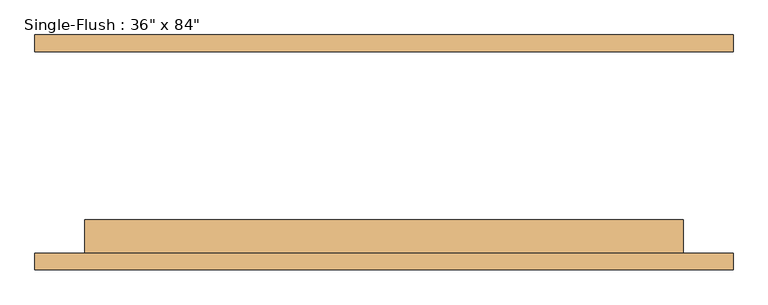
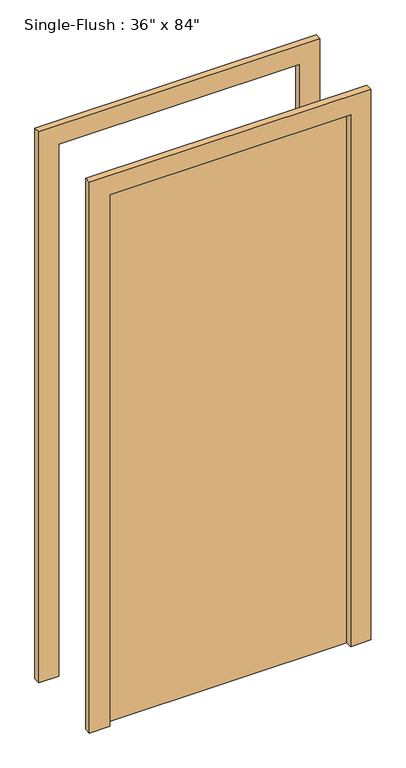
"""IFC4 building model written with IfcOpenShell, lengths in millimetres: door geometry."""

from ifc_helpers import new_model, si_unit, frame, origin, origin_with_axes, place, context, project, spatial, polyline, outline, extrude, source, transform, mapped, element, save


def door_90af15fc(model_context):
    return source(origin(), model_context, "Body", "SweptSolid", [
        extrude(outline(polyline([(2209.8, -533.4), (0.0, -533.4), (0.0, -457.2), (2133.6, -457.2), (2133.6, 457.2), (0.0, 457.2), (0.0, 533.4), (2209.8, 533.4), (2209.8, -533.4)])), frame((0.0, -179.3875, 0.0), z_axis=(0.0, 1.0, 0.0), x_axis=(0.0, 0.0, 1.0)), (0.0, 0.0, 1.0), 25.4),
        extrude(outline(polyline([(2209.8, 533.4), (2209.8, -533.4), (0.0, -533.4), (0.0, -457.2), (2133.6, -457.2), (2133.6, 457.2), (0.0, 457.2), (0.0, 533.4), (2209.8, 533.4)])), frame((0.0, 153.9875, 0.0), z_axis=(0.0, 1.0, 0.0), x_axis=(0.0, 0.0, 1.0)), (0.0, 0.0, 1.0), 25.4),
        extrude(outline(polyline([(457.2, -103.1875), (457.2, -153.9875), (-457.2, -153.9875), (-457.2, -103.1875), (457.2, -103.1875)])), origin_with_axes(), (0.0, 0.0, 1.0), 2133.6),
    ])


if __name__ == "__main__":
    model = new_model("IFC4")
    model_context = context("Model", 3, world=origin())
    ifc_project = project(units=[si_unit("LENGTHUNIT", "METRE", prefix="MILLI")], contexts=[model_context])
    site = spatial("IfcSite", under=ifc_project)
    building = spatial("IfcBuilding", under=site)
    placement = place(None, origin())
    door_shape = door_90af15fc(model_context)
    element("IfcDoor", 1, ObjectType="Single-Flush : 36\" x 84\"", at=placement, inside=building, context=model_context, shape_type="MappedRepresentation", body=[
        mapped(door_shape, transform((0.0, 0.0, 0.0), x_axis=(1.0, 0.0, 0.0), y_axis=(0.0, 1.0, 0.0), z_axis=(0.0, 0.0, 1.0))),
    ])
    save(model, "model.ifc")
